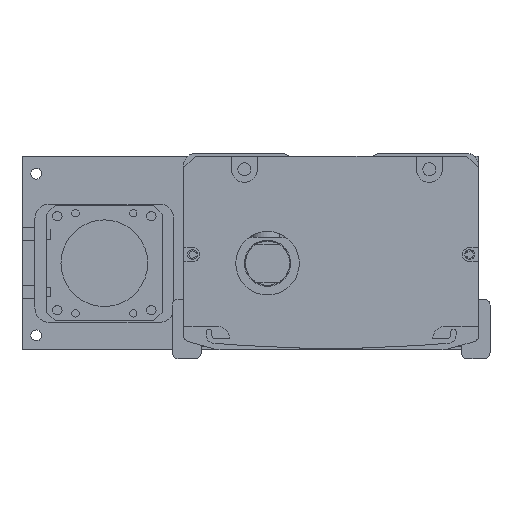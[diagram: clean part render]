
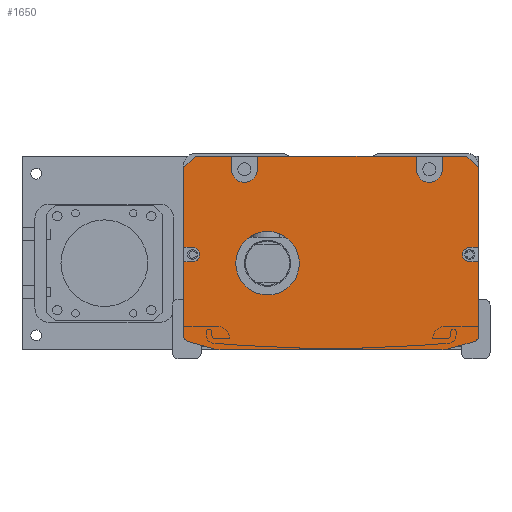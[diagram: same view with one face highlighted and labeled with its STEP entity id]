
A CAD part, front view. The second image highlights one B-rep face of the part: STEP entity #1650.
In plain terms, the highlighted planar face has unit normal (0, -1, 0).
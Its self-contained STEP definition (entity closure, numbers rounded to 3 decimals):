
#1650=ADVANCED_FACE('',(#4348,#4349),#2344,.F.);
#2344=PLANE('',#13833);
#2648=LINE('',#19323,#3453);
#2652=LINE('',#19331,#3457);
#2662=LINE('',#19352,#3467);
#2666=LINE('',#19360,#3471);
#2935=LINE('',#20353,#3740);
#2936=LINE('',#20355,#3741);
#2937=LINE('',#20357,#3742);
#2938=LINE('',#20361,#3743);
#2939=LINE('',#20363,#3744);
#2940=LINE('',#20365,#3745);
#2941=LINE('',#20369,#3746);
#2942=LINE('',#20371,#3747);
#2943=LINE('',#20373,#3748);
#2944=LINE('',#20374,#3749);
#2945=LINE('',#20378,#3750);
#2946=LINE('',#20381,#3751);
#2947=LINE('',#20385,#3752);
#2948=LINE('',#20389,#3753);
#2949=LINE('',#20392,#3754);
#2950=LINE('',#20396,#3755);
#3453=VECTOR('',#15129,1.);
#3457=VECTOR('',#15133,1.);
#3467=VECTOR('',#15145,1.);
#3471=VECTOR('',#15149,1.);
#3740=VECTOR('',#16214,1.);
#3741=VECTOR('',#16215,1.);
#3742=VECTOR('',#16216,1.);
#3743=VECTOR('',#16219,1.);
#3744=VECTOR('',#16220,1.);
#3745=VECTOR('',#16221,1.);
#3746=VECTOR('',#16224,1.);
#3747=VECTOR('',#16225,1.);
#3748=VECTOR('',#16226,1.);
#3749=VECTOR('',#16227,1.);
#3750=VECTOR('',#16230,1.);
#3751=VECTOR('',#16233,1.);
#3752=VECTOR('',#16236,1.);
#3753=VECTOR('',#16239,1.);
#3754=VECTOR('',#16242,1.);
#3755=VECTOR('',#16245,1.);
#4348=FACE_BOUND('',#5092,.T.);
#4349=FACE_BOUND('',#5093,.T.);
#5092=EDGE_LOOP('',(#7022,#7023,#7024,#7025,#7026,#7027,#7028,#7029,#7030,
#7031,#7032,#7033,#7034,#7035,#7036,#7037,#7038,#7039,#7040,#7041,#7042,
#7043,#7044,#7045,#7046,#7047,#7048,#7049));
#5093=EDGE_LOOP('',(#7050));
#7022=ORIENTED_EDGE('',*,*,#10986,.T.);
#7023=ORIENTED_EDGE('',*,*,#11470,.T.);
#7024=ORIENTED_EDGE('',*,*,#11471,.T.);
#7025=ORIENTED_EDGE('',*,*,#11472,.F.);
#7026=ORIENTED_EDGE('',*,*,#11473,.T.);
#7027=ORIENTED_EDGE('',*,*,#11474,.F.);
#7028=ORIENTED_EDGE('',*,*,#11475,.T.);
#7029=ORIENTED_EDGE('',*,*,#11476,.F.);
#7030=ORIENTED_EDGE('',*,*,#11477,.T.);
#7031=ORIENTED_EDGE('',*,*,#11478,.F.);
#7032=ORIENTED_EDGE('',*,*,#11479,.T.);
#7033=ORIENTED_EDGE('',*,*,#11480,.T.);
#7034=ORIENTED_EDGE('',*,*,#11004,.T.);
#7035=ORIENTED_EDGE('',*,*,#11481,.T.);
#7036=ORIENTED_EDGE('',*,*,#11482,.T.);
#7037=ORIENTED_EDGE('',*,*,#11483,.T.);
#7038=ORIENTED_EDGE('',*,*,#11000,.T.);
#7039=ORIENTED_EDGE('',*,*,#11484,.T.);
#7040=ORIENTED_EDGE('',*,*,#11485,.T.);
#7041=ORIENTED_EDGE('',*,*,#11486,.T.);
#7042=ORIENTED_EDGE('',*,*,#11487,.T.);
#7043=ORIENTED_EDGE('',*,*,#11488,.T.);
#7044=ORIENTED_EDGE('',*,*,#11489,.T.);
#7045=ORIENTED_EDGE('',*,*,#11490,.T.);
#7046=ORIENTED_EDGE('',*,*,#10990,.T.);
#7047=ORIENTED_EDGE('',*,*,#11491,.T.);
#7048=ORIENTED_EDGE('',*,*,#11492,.T.);
#7049=ORIENTED_EDGE('',*,*,#11493,.T.);
#7050=ORIENTED_EDGE('',*,*,#11494,.T.);
#9679=VERTEX_POINT('',#19322);
#9680=VERTEX_POINT('',#19324);
#9683=VERTEX_POINT('',#19330);
#9684=VERTEX_POINT('',#19332);
#9693=VERTEX_POINT('',#19351);
#9694=VERTEX_POINT('',#19353);
#9697=VERTEX_POINT('',#19359);
#9698=VERTEX_POINT('',#19361);
#10024=VERTEX_POINT('',#20354);
#10025=VERTEX_POINT('',#20356);
#10026=VERTEX_POINT('',#20358);
#10027=VERTEX_POINT('',#20360);
#10028=VERTEX_POINT('',#20362);
#10029=VERTEX_POINT('',#20364);
#10030=VERTEX_POINT('',#20366);
#10031=VERTEX_POINT('',#20368);
#10032=VERTEX_POINT('',#20370);
#10033=VERTEX_POINT('',#20372);
#10034=VERTEX_POINT('',#20375);
#10035=VERTEX_POINT('',#20377);
#10036=VERTEX_POINT('',#20380);
#10037=VERTEX_POINT('',#20382);
#10038=VERTEX_POINT('',#20384);
#10039=VERTEX_POINT('',#20386);
#10040=VERTEX_POINT('',#20388);
#10041=VERTEX_POINT('',#20390);
#10042=VERTEX_POINT('',#20393);
#10043=VERTEX_POINT('',#20395);
#10044=VERTEX_POINT('',#20398);
#10986=EDGE_CURVE('',#9680,#9679,#2648,.T.);
#10990=EDGE_CURVE('',#9684,#9683,#2652,.T.);
#11000=EDGE_CURVE('',#9694,#9693,#2662,.T.);
#11004=EDGE_CURVE('',#9698,#9697,#2666,.T.);
#11470=EDGE_CURVE('',#9679,#10024,#2935,.T.);
#11471=EDGE_CURVE('',#10024,#10025,#2936,.T.);
#11472=EDGE_CURVE('',#10026,#10025,#2937,.T.);
#11473=EDGE_CURVE('',#10026,#10027,#12884,.T.);
#11474=EDGE_CURVE('',#10028,#10027,#2938,.T.);
#11475=EDGE_CURVE('',#10028,#10029,#2939,.T.);
#11476=EDGE_CURVE('',#10030,#10029,#2940,.T.);
#11477=EDGE_CURVE('',#10030,#10031,#12885,.T.);
#11478=EDGE_CURVE('',#10032,#10031,#2941,.T.);
#11479=EDGE_CURVE('',#10032,#10033,#2942,.T.);
#11480=EDGE_CURVE('',#10033,#9698,#2943,.T.);
#11481=EDGE_CURVE('',#9697,#10034,#2944,.T.);
#11482=EDGE_CURVE('',#10034,#10035,#12886,.T.);
#11483=EDGE_CURVE('',#10035,#9694,#2945,.T.);
#11484=EDGE_CURVE('',#9693,#10036,#12887,.T.);
#11485=EDGE_CURVE('',#10036,#10037,#2946,.T.);
#11486=EDGE_CURVE('',#10037,#10038,#12888,.T.);
#11487=EDGE_CURVE('',#10038,#10039,#2947,.T.);
#11488=EDGE_CURVE('',#10039,#10040,#12889,.T.);
#11489=EDGE_CURVE('',#10040,#10041,#2948,.T.);
#11490=EDGE_CURVE('',#10041,#9684,#12890,.T.);
#11491=EDGE_CURVE('',#9683,#10042,#2949,.T.);
#11492=EDGE_CURVE('',#10042,#10043,#12891,.T.);
#11493=EDGE_CURVE('',#10043,#9680,#2950,.T.);
#11494=EDGE_CURVE('',#10044,#10044,#12892,.T.);
#12884=CIRCLE('',#13824,4.5);
#12885=CIRCLE('',#13825,4.5);
#12886=CIRCLE('',#13826,2.5);
#12887=CIRCLE('',#13827,2.);
#12888=CIRCLE('',#13828,10.);
#12889=CIRCLE('',#13829,10.);
#12890=CIRCLE('',#13830,2.);
#12891=CIRCLE('',#13831,2.5);
#12892=CIRCLE('',#13832,11.);
#13824=AXIS2_PLACEMENT_3D('',#20359,#16217,#16218);
#13825=AXIS2_PLACEMENT_3D('',#20367,#16222,#16223);
#13826=AXIS2_PLACEMENT_3D('',#20376,#16228,#16229);
#13827=AXIS2_PLACEMENT_3D('',#20379,#16231,#16232);
#13828=AXIS2_PLACEMENT_3D('',#20383,#16234,#16235);
#13829=AXIS2_PLACEMENT_3D('',#20387,#16237,#16238);
#13830=AXIS2_PLACEMENT_3D('',#20391,#16240,#16241);
#13831=AXIS2_PLACEMENT_3D('',#20394,#16243,#16244);
#13832=AXIS2_PLACEMENT_3D('',#20397,#16246,#16247);
#13833=AXIS2_PLACEMENT_3D('',#20399,#16248,#16249);
#15129=DIRECTION('',(0.,0.,1.));
#15133=DIRECTION('',(0.,0.,1.));
#15145=DIRECTION('',(0.,0.,-1.));
#15149=DIRECTION('',(0.,0.,-1.));
#16214=DIRECTION('',(-0.707,0.,0.707));
#16215=DIRECTION('',(-1.,0.,0.));
#16216=DIRECTION('',(0.,0.,1.));
#16217=DIRECTION('',(0.,1.,0.));
#16218=DIRECTION('',(0.,0.,1.));
#16219=DIRECTION('',(0.,0.,-1.));
#16220=DIRECTION('',(-1.,0.,0.));
#16221=DIRECTION('',(0.,0.,1.));
#16222=DIRECTION('',(0.,1.,0.));
#16223=DIRECTION('',(0.,0.,1.));
#16224=DIRECTION('',(0.,0.,-1.));
#16225=DIRECTION('',(-1.,0.,0.));
#16226=DIRECTION('',(-0.707,0.,-0.707));
#16227=DIRECTION('',(1.,0.,0.));
#16228=DIRECTION('',(0.,1.,0.));
#16229=DIRECTION('',(0.,0.,1.));
#16230=DIRECTION('',(-1.,0.,0.));
#16231=DIRECTION('',(0.,-1.,0.));
#16232=DIRECTION('',(0.,0.,1.));
#16233=DIRECTION('',(0.963,0.,-0.269));
#16234=DIRECTION('',(0.,-1.,0.));
#16235=DIRECTION('',(0.,0.,1.));
#16236=DIRECTION('',(1.,0.,0.));
#16237=DIRECTION('',(0.,-1.,0.));
#16238=DIRECTION('',(0.,0.,-1.));
#16239=DIRECTION('',(0.963,0.,0.269));
#16240=DIRECTION('',(0.,-1.,0.));
#16241=DIRECTION('',(0.,0.,-1.));
#16242=DIRECTION('',(-1.,0.,0.));
#16243=DIRECTION('',(0.,1.,0.));
#16244=DIRECTION('',(0.,0.,1.));
#16245=DIRECTION('',(1.,0.,0.));
#16246=DIRECTION('',(0.,1.,0.));
#16247=DIRECTION('',(0.,0.,1.));
#16248=DIRECTION('',(0.,1.,0.));
#16249=DIRECTION('',(1.,0.,0.));
#19322=CARTESIAN_POINT('',(47.808,-617.5,-5.));
#19323=CARTESIAN_POINT('',(47.808,-617.5,-1.));
#19324=CARTESIAN_POINT('',(47.808,-617.5,-32.5));
#19330=CARTESIAN_POINT('',(47.808,-617.5,-37.5));
#19331=CARTESIAN_POINT('',(47.808,-617.5,-1.));
#19332=CARTESIAN_POINT('',(47.808,-617.5,-63.212));
#19351=CARTESIAN_POINT('',(-54.192,-617.5,-63.212));
#19352=CARTESIAN_POINT('',(-54.192,-617.5,-62.));
#19353=CARTESIAN_POINT('',(-54.192,-617.5,-37.5));
#19359=CARTESIAN_POINT('',(-54.192,-617.5,-32.5));
#19360=CARTESIAN_POINT('',(-54.192,-617.5,-62.));
#19361=CARTESIAN_POINT('',(-54.192,-617.5,-5.));
#20353=CARTESIAN_POINT('',(43.808,-617.5,-1.));
#20354=CARTESIAN_POINT('',(43.808,-617.5,-1.));
#20355=CARTESIAN_POINT('',(-3.192,-617.5,-1.));
#20356=CARTESIAN_POINT('',(35.308,-617.5,-1.));
#20357=CARTESIAN_POINT('',(35.308,-617.5,-1.));
#20358=CARTESIAN_POINT('',(35.308,-617.5,-5.5));
#20359=CARTESIAN_POINT('',(30.808,-617.5,-5.5));
#20360=CARTESIAN_POINT('',(26.308,-617.5,-5.5));
#20361=CARTESIAN_POINT('',(26.308,-617.5,-1.));
#20362=CARTESIAN_POINT('',(26.308,-617.5,-1.));
#20363=CARTESIAN_POINT('',(-54.192,-617.5,-1.));
#20364=CARTESIAN_POINT('',(-28.692,-617.5,-1.));
#20365=CARTESIAN_POINT('',(-28.692,-617.5,-3.5));
#20366=CARTESIAN_POINT('',(-28.692,-617.5,-5.5));
#20367=CARTESIAN_POINT('',(-33.192,-617.5,-5.5));
#20368=CARTESIAN_POINT('',(-37.692,-617.5,-5.5));
#20369=CARTESIAN_POINT('',(-37.692,-617.5,-1.));
#20370=CARTESIAN_POINT('',(-37.692,-617.5,-1.));
#20371=CARTESIAN_POINT('',(-54.192,-617.5,-1.));
#20372=CARTESIAN_POINT('',(-50.192,-617.5,-1.));
#20373=CARTESIAN_POINT('',(-54.192,-617.5,-5.));
#20374=CARTESIAN_POINT('',(-3.192,-617.5,-32.5));
#20375=CARTESIAN_POINT('',(-51.192,-617.5,-32.5));
#20376=CARTESIAN_POINT('',(-51.192,-617.5,-35.));
#20377=CARTESIAN_POINT('',(-51.192,-617.5,-37.5));
#20378=CARTESIAN_POINT('',(-3.192,-617.5,-37.5));
#20379=CARTESIAN_POINT('',(-52.192,-617.5,-63.212));
#20380=CARTESIAN_POINT('',(-52.731,-617.5,-65.138));
#20381=CARTESIAN_POINT('',(-55.807,-617.5,-64.279));
#20382=CARTESIAN_POINT('',(-43.809,-617.5,-67.631));
#20383=CARTESIAN_POINT('',(-41.118,-617.5,-58.));
#20384=CARTESIAN_POINT('',(-41.118,-617.5,-68.));
#20385=CARTESIAN_POINT('',(-54.692,-617.5,-68.));
#20386=CARTESIAN_POINT('',(34.733,-617.5,-68.));
#20387=CARTESIAN_POINT('',(34.733,-617.5,-58.));
#20388=CARTESIAN_POINT('',(37.424,-617.5,-67.631));
#20389=CARTESIAN_POINT('',(49.422,-617.5,-64.279));
#20390=CARTESIAN_POINT('',(46.346,-617.5,-65.138));
#20391=CARTESIAN_POINT('',(45.808,-617.5,-63.212));
#20392=CARTESIAN_POINT('',(-3.192,-617.5,-37.5));
#20393=CARTESIAN_POINT('',(44.808,-617.5,-37.5));
#20394=CARTESIAN_POINT('',(44.808,-617.5,-35.));
#20395=CARTESIAN_POINT('',(44.808,-617.5,-32.5));
#20396=CARTESIAN_POINT('',(-3.192,-617.5,-32.5));
#20397=CARTESIAN_POINT('',(-25.192,-617.5,-38.));
#20398=CARTESIAN_POINT('',(-25.192,-617.5,-27.));
#20399=CARTESIAN_POINT('',(-3.192,-617.5,-1.));
